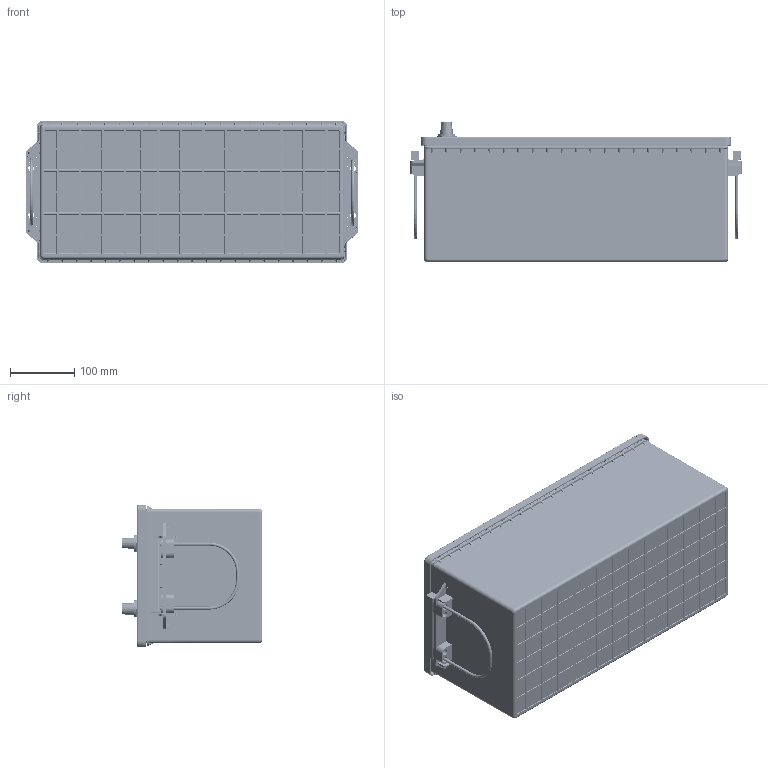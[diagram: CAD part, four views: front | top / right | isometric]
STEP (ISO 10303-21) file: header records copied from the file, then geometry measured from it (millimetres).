
FILE_DESCRIPTION (( 'STEP AP203' ), '1' );
FILE_NAME ('ODP-DINB.STEP', '2024-09-17T18:19:25', ( '' ), ( '' ), 'SwSTEP 2.0', 'SolidWorks 2023', '' );
FILE_SCHEMA (( 'CONFIG_CONTROL_DESIGN' ));
Products named in the file (1): ODP-DINB
Bounding box: 517.69 x 217.99 x 222.57 mm (x, y, z)
Volume: 14443737.4 mm3; surface area: 17752813.9 mm2
Topology: 331 solids, 331 shells, 14422 faces, 37133 edges, 23731 vertices
Faces by surface type: plane 7949, cylinder 4039, bspline 1147, torus 694, cone 438, sphere 155
Entity records: 556421 total; most frequent: CARTESIAN_POINT 218875, ORIENTED_EDGE 73994, DIRECTION 63905, EDGE_CURVE 36997, VERTEX_POINT 23727, VECTOR 22325, LINE 22325, AXIS2_PLACEMENT_3D 20790
